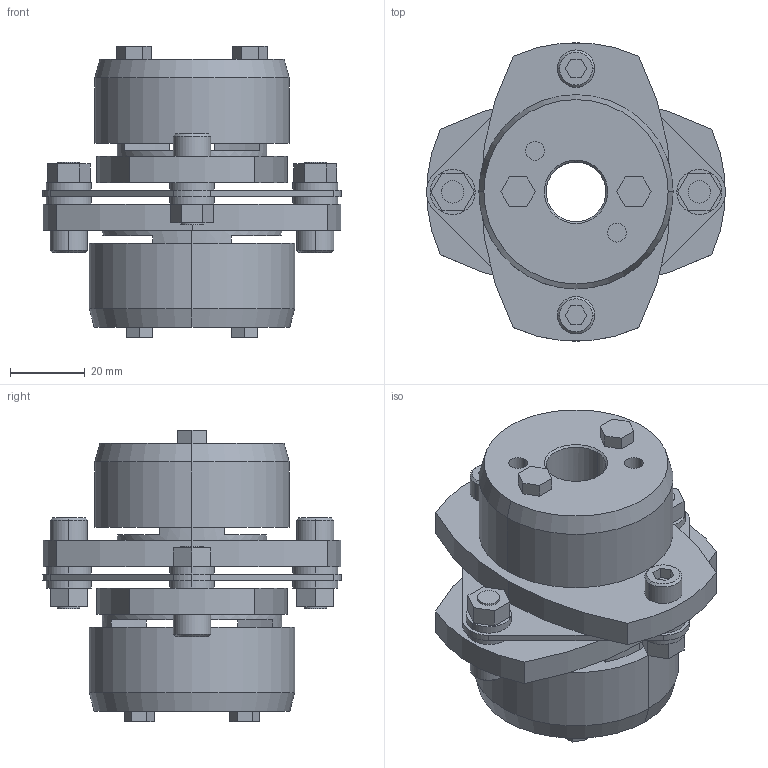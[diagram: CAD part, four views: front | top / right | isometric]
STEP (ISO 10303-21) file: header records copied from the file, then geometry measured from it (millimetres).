
FILE_DESCRIPTION((''),'2;1');
FILE_NAME('LCS-80T7-16×28.stp','2015-10-31T17:36:53',(''),(''),'AutoCAD STEP 2000i','AutoCAD 2000i',', , ');
FILE_SCHEMA(('CONFIG_CONTROL_DESIGN'));
Length unit declared in the file: millimetre
Products named in the file (9): LCS-80T7-17×28; 忣兜1; LC80T7-T028; LC80T7-T024; LC80T7-T022; LC80T7-T019; LC80T7-T017-1; LC80T7-T017; LCS80-ITA
Assembly tree (8 placements, depth 2):
  LCS-80T7-17×28
    忣兜1
    LC80T7-T028
    LC80T7-T024
    LC80T7-T022
    LC80T7-T019
    LC80T7-T017-1
    LC80T7-T017
    LCS80-ITA
Bounding box: 80 x 79.95 x 78.05 mm (x, y, z)
Volume: 139529.6 mm3; surface area: 41372.8 mm2
Topology: 1 solids, 1 shells, 232 faces, 568 edges, 372 vertices
Faces by surface type: plane 132, cylinder 80, cone 20
Entity records: 7091 total; most frequent: DIRECTION 1246, CARTESIAN_POINT 1181, ORIENTED_EDGE 1136, EDGE_CURVE 568, AXIS2_PLACEMENT_3D 437, VERTEX_POINT 372, VECTOR 372, LINE 372
